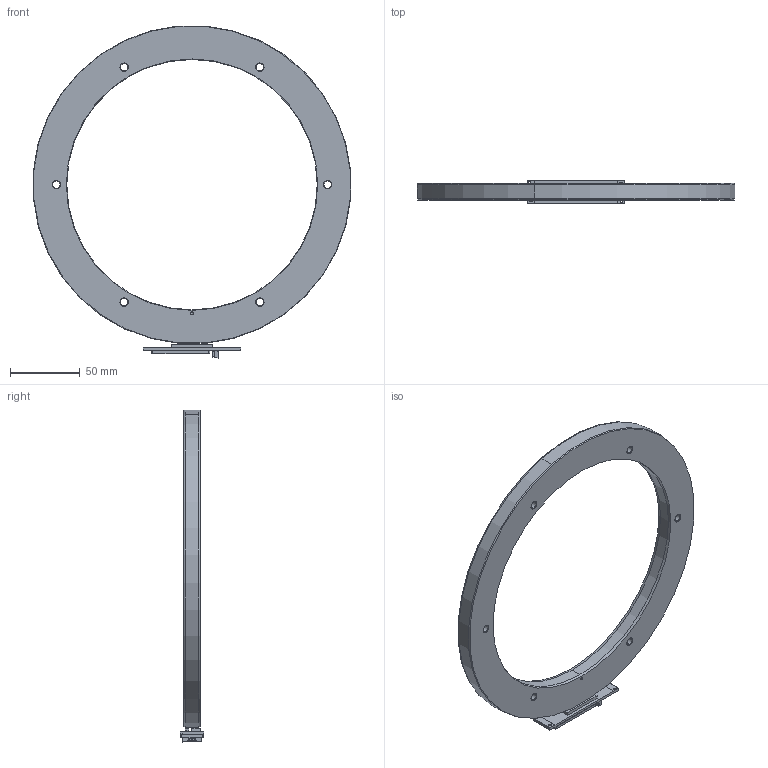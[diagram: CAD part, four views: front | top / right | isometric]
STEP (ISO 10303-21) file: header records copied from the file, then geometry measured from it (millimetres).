
FILE_DESCRIPTION (( 'STEP AP214' ), '1' );
FILE_NAME ('DBRxVx_SAR229.STEP', '2024-02-01T10:07:41', ( '' ), ( '' ), 'SwSTEP 2.0', 'SolidWorks 2022', '' );
FILE_SCHEMA (( 'AUTOMOTIVE_DESIGN' ));
Length unit declared in the file: millimetre
Products named in the file (1): DBRxVx_SAR229
Bounding box: 228.12 x 17 x 238.69 mm (x, y, z)
Volume: 188482.7 mm3; surface area: 51575.5 mm2
Topology: 2 solids, 2 shells, 1422 faces, 3893 edges, 2585 vertices
Faces by surface type: plane 1043, bspline 225, cylinder 106, cone 44, sphere 4
Entity records: 72131 total; most frequent: CARTESIAN_POINT 25647, ORIENTED_EDGE 7776, DIRECTION 4008, EDGE_CURVE 3888, VERTEX_POINT 2585, B_SPLINE_CURVE_WITH_KNOTS 2410, EDGE_LOOP 1563, UNCERTAINTY_MEASURE_WITH_UNIT 1426
